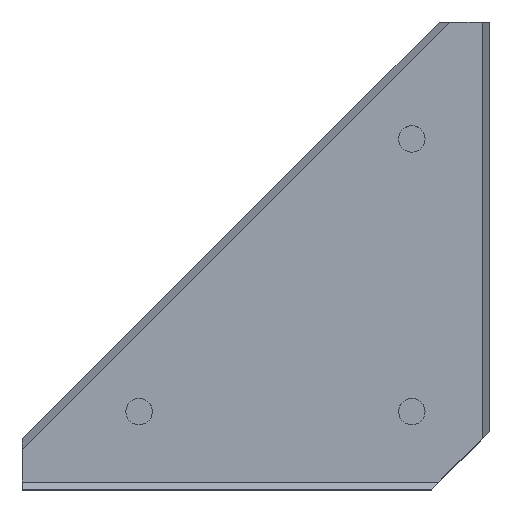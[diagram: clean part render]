
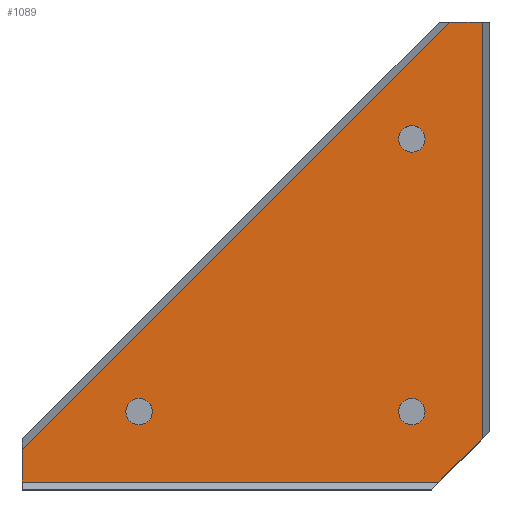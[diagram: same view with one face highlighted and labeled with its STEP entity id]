
A CAD part, top view. The second image highlights one B-rep face of the part: STEP entity #1089.
In plain terms, the highlighted planar face has unit normal (0, 0, 1).
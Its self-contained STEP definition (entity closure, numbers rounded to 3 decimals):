
#10 = VERTEX_POINT ( 'NONE', #1143 ) ;
#79 = CARTESIAN_POINT ( 'NONE',  ( 26.6, 20., 41. ) ) ;
#118 = CARTESIAN_POINT ( 'NONE',  ( 33.4, 20., 41. ) ) ;
#130 = LINE ( 'NONE', #131, #132 ) ;
#131 = CARTESIAN_POINT ( 'NONE',  ( 0., 13., 41. ) ) ;
#132 = VECTOR ( 'NONE', #133, 1000. ) ;
#133 = DIRECTION ( 'NONE',  ( 0., -1., 0. ) ) ;
#160 = CIRCLE ( 'NONE', #161, 3.4 ) ;
#161 = AXIS2_PLACEMENT_3D ( 'NONE', #162, #163, #164 ) ;
#162 = CARTESIAN_POINT ( 'NONE',  ( 100., 20., 41. ) ) ;
#163 = DIRECTION ( 'NONE',  ( 0., 0., 1. ) ) ;
#164 = DIRECTION ( 'NONE',  ( 1., 0., 0. ) ) ;
#199 = VERTEX_POINT ( 'NONE', #1283 ) ;
#218 = ORIENTED_EDGE ( 'NONE', *, *, #1047, .F. ) ;
#227 = CARTESIAN_POINT ( 'NONE',  ( 96.6, 20., 41. ) ) ;
#247 = LINE ( 'NONE', #248, #249 ) ;
#248 = CARTESIAN_POINT ( 'NONE',  ( 0., 1.9, 41. ) ) ;
#249 = VECTOR ( 'NONE', #250, 1000. ) ;
#250 = DIRECTION ( 'NONE',  ( 1., 0., 0. ) ) ;
#259 = CIRCLE ( 'NONE', #260, 3.4 ) ;
#260 = AXIS2_PLACEMENT_3D ( 'NONE', #261, #262, #263 ) ;
#261 = CARTESIAN_POINT ( 'NONE',  ( 30., 20., 41. ) ) ;
#262 = DIRECTION ( 'NONE',  ( 0., 0., 1. ) ) ;
#263 = DIRECTION ( 'NONE',  ( 1., 0., 0. ) ) ;
#270 = CIRCLE ( 'NONE', #271, 3.4 ) ;
#271 = AXIS2_PLACEMENT_3D ( 'NONE', #274, #275, #276 ) ;
#274 = CARTESIAN_POINT ( 'NONE',  ( 100., 20., 41. ) ) ;
#275 = DIRECTION ( 'NONE',  ( 0., 0., 1. ) ) ;
#276 = DIRECTION ( 'NONE',  ( 1., 0., 0. ) ) ;
#295 = CIRCLE ( 'NONE', #296, 3.4 ) ;
#296 = AXIS2_PLACEMENT_3D ( 'NONE', #297, #298, #299 ) ;
#297 = CARTESIAN_POINT ( 'NONE',  ( 100., 90., 41. ) ) ;
#298 = DIRECTION ( 'NONE',  ( 0., 0., 1. ) ) ;
#299 = DIRECTION ( 'NONE',  ( 1., 0., 0. ) ) ;
#309 = CARTESIAN_POINT ( 'NONE',  ( 96.6, 90., 41. ) ) ;
#334 = CARTESIAN_POINT ( 'NONE',  ( 103.4, 90., 41. ) ) ;
#355 = CARTESIAN_POINT ( 'NONE',  ( 118.1, 120., 41. ) ) ;
#396 = CIRCLE ( 'NONE', #397, 3.4 ) ;
#397 = AXIS2_PLACEMENT_3D ( 'NONE', #398, #399, #400 ) ;
#398 = CARTESIAN_POINT ( 'NONE',  ( 100., 90., 41. ) ) ;
#399 = DIRECTION ( 'NONE',  ( 0., 0., 1. ) ) ;
#400 = DIRECTION ( 'NONE',  ( 1., 0., 0. ) ) ;
#453 = LINE ( 'NONE', #454, #455 ) ;
#454 = CARTESIAN_POINT ( 'NONE',  ( 120., 120., 41. ) ) ;
#455 = VECTOR ( 'NONE', #456, 1000. ) ;
#456 = DIRECTION ( 'NONE',  ( -1., 0., 0. ) ) ;
#485 = VERTEX_POINT ( 'NONE', #118 ) ;
#668 = EDGE_CURVE ( 'NONE', #768, #485, #259, .T. ) ;
#670 = EDGE_LOOP ( 'NONE', ( #218, #995 ) ) ;
#681 = VERTEX_POINT ( 'NONE', #334 ) ;
#694 = ORIENTED_EDGE ( 'NONE', *, *, #720, .T. ) ;
#696 = ORIENTED_EDGE ( 'NONE', *, *, #668, .F. ) ;
#697 = VERTEX_POINT ( 'NONE', #355 ) ;
#710 = EDGE_CURVE ( 'NONE', #802, #681, #396, .T. ) ;
#720 = EDGE_CURVE ( 'NONE', #697, #814, #453, .T. ) ;
#751 = EDGE_CURVE ( 'NONE', #10, #697, #1335, .T. ) ;
#752 = EDGE_CURVE ( 'NONE', #485, #768, #1339, .T. ) ;
#768 = VERTEX_POINT ( 'NONE', #79 ) ;
#774 = EDGE_CURVE ( 'NONE', #199, #867, #130, .T. ) ;
#789 = ORIENTED_EDGE ( 'NONE', *, *, #751, .T. ) ;
#790 = ORIENTED_EDGE ( 'NONE', *, *, #752, .F. ) ;
#802 = VERTEX_POINT ( 'NONE', #309 ) ;
#814 = VERTEX_POINT ( 'NONE', #1108 ) ;
#828 = VERTEX_POINT ( 'NONE', #1159 ) ;
#842 = EDGE_LOOP ( 'NONE', ( #790, #696 ) ) ;
#856 = EDGE_CURVE ( 'NONE', #828, #10, #1252, .T. ) ;
#863 = ORIENTED_EDGE ( 'NONE', *, *, #856, .T. ) ;
#867 = VERTEX_POINT ( 'NONE', #1299 ) ;
#870 = ORIENTED_EDGE ( 'NONE', *, *, #710, .F. ) ;
#913 = ORIENTED_EDGE ( 'NONE', *, *, #1125, .F. ) ;
#916 = VERTEX_POINT ( 'NONE', #227 ) ;
#921 = EDGE_CURVE ( 'NONE', #867, #828, #247, .T. ) ;
#928 = EDGE_CURVE ( 'NONE', #681, #802, #295, .T. ) ;
#959 = ORIENTED_EDGE ( 'NONE', *, *, #921, .T. ) ;
#965 = ORIENTED_EDGE ( 'NONE', *, *, #928, .F. ) ;
#969 = EDGE_LOOP ( 'NONE', ( #913, #1018, #959, #863, #789, #694 ) ) ;
#995 = ORIENTED_EDGE ( 'NONE', *, *, #1030, .F. ) ;
#1008 = VERTEX_POINT ( 'NONE', #1361 ) ;
#1018 = ORIENTED_EDGE ( 'NONE', *, *, #774, .T. ) ;
#1030 = EDGE_CURVE ( 'NONE', #916, #1008, #160, .T. ) ;
#1041 = EDGE_LOOP ( 'NONE', ( #965, #870 ) ) ;
#1047 = EDGE_CURVE ( 'NONE', #1008, #916, #270, .T. ) ;
#1089 = ADVANCED_FACE ( 'NONE', ( #1091, #1092, #1093, #1094 ), #1095, .T. ) ;
#1091 = FACE_BOUND ( 'NONE', #1041, .T. ) ;
#1092 = FACE_BOUND ( 'NONE', #842, .T. ) ;
#1093 = FACE_BOUND ( 'NONE', #670, .T. ) ;
#1094 = FACE_OUTER_BOUND ( 'NONE', #969, .T. ) ;
#1095 = PLANE ( 'NONE',  #1096 ) ;
#1096 = AXIS2_PLACEMENT_3D ( 'NONE', #1097, #1098, #1099 ) ;
#1097 = CARTESIAN_POINT ( 'NONE',  ( 0., 0., 41. ) ) ;
#1098 = DIRECTION ( 'NONE',  ( 0., 0., 1. ) ) ;
#1099 = DIRECTION ( 'NONE',  ( 1., 0., 0. ) ) ;
#1108 = CARTESIAN_POINT ( 'NONE',  ( 109.687, 120., 41. ) ) ;
#1109 = LINE ( 'NONE', #1110, #1111 ) ;
#1110 = CARTESIAN_POINT ( 'NONE',  ( -5.156, 5.156, 41. ) ) ;
#1111 = VECTOR ( 'NONE', #1112, 1000. ) ;
#1112 = DIRECTION ( 'NONE',  ( 0.707, 0.707, 0. ) ) ;
#1125 = EDGE_CURVE ( 'NONE', #199, #814, #1109, .T. ) ;
#1143 = CARTESIAN_POINT ( 'NONE',  ( 118.1, 13.1, 41. ) ) ;
#1159 = CARTESIAN_POINT ( 'NONE',  ( 106.9, 1.9, 41. ) ) ;
#1252 = LINE ( 'NONE', #1253, #1254 ) ;
#1253 = CARTESIAN_POINT ( 'NONE',  ( 105., 0., 41. ) ) ;
#1254 = VECTOR ( 'NONE', #1255, 1000. ) ;
#1255 = DIRECTION ( 'NONE',  ( 0.707, 0.707, 0. ) ) ;
#1283 = CARTESIAN_POINT ( 'NONE',  ( 0., 10.313, 41. ) ) ;
#1299 = CARTESIAN_POINT ( 'NONE',  ( 0., 1.9, 41. ) ) ;
#1335 = LINE ( 'NONE', #1336, #1337 ) ;
#1336 = CARTESIAN_POINT ( 'NONE',  ( 118.1, 11.402, 41. ) ) ;
#1337 = VECTOR ( 'NONE', #1338, 1000. ) ;
#1338 = DIRECTION ( 'NONE',  ( 0., 1., 0. ) ) ;
#1339 = CIRCLE ( 'NONE', #1340, 3.4 ) ;
#1340 = AXIS2_PLACEMENT_3D ( 'NONE', #1341, #1342, #1343 ) ;
#1341 = CARTESIAN_POINT ( 'NONE',  ( 30., 20., 41. ) ) ;
#1342 = DIRECTION ( 'NONE',  ( 0., 0., 1. ) ) ;
#1343 = DIRECTION ( 'NONE',  ( 1., 0., 0. ) ) ;
#1361 = CARTESIAN_POINT ( 'NONE',  ( 103.4, 20., 41. ) ) ;
